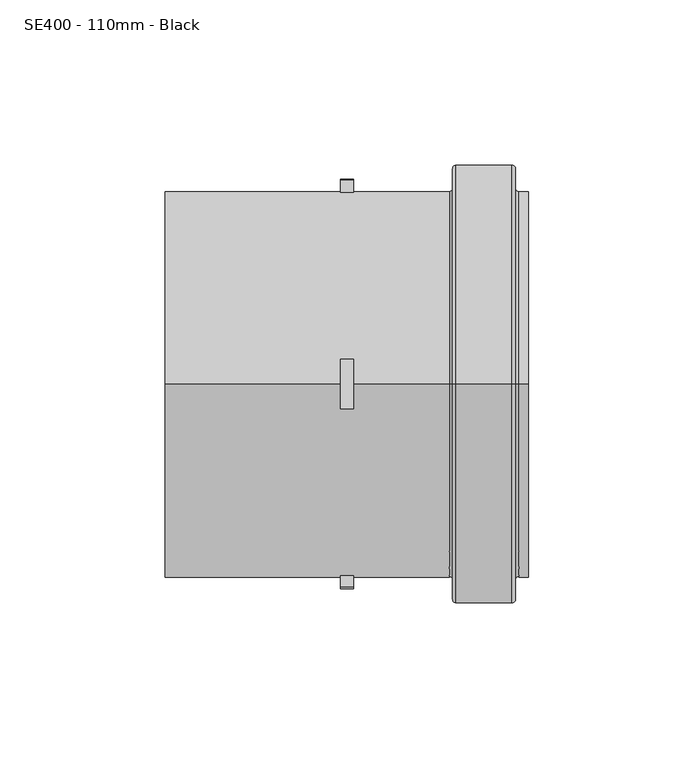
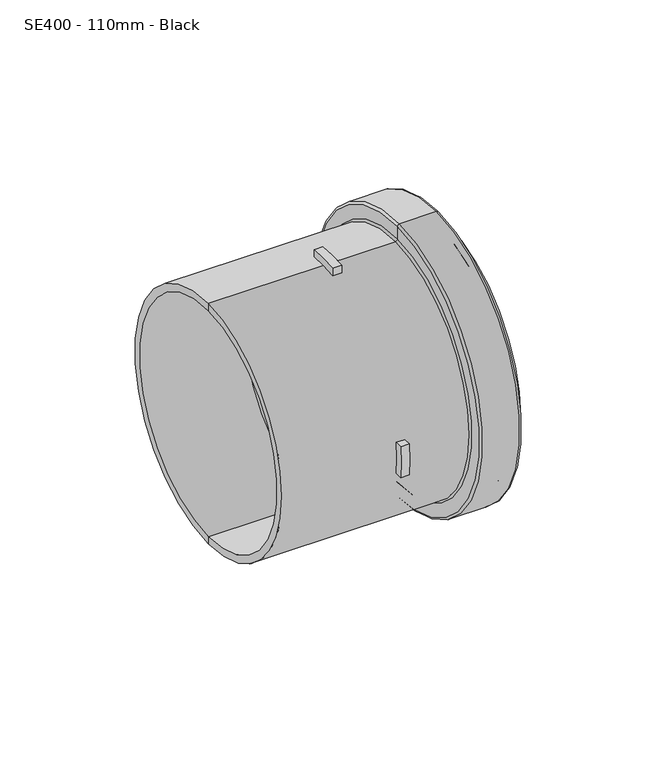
"""IFC4 building model written with IfcOpenShell, lengths in millimetres: pipe fitting geometry, MarleyPlumbingAndDrainage_PipeFitting_LoosePipeSocket : SE400 - 110mm - Black."""

from ifc_helpers import new_model, si_unit, point, frame, origin, origin_2d, place, context, project, spatial, polyline, circle_curve, ellipse_curve, trimmed, segment, composite_curve, outline, extrude, source, transform, mapped, element, save
from ifc_brep_helpers import plane_surface, cylinder_surface, revolved_surface, advanced_brep


def se400_110mm_black_a2e12baf(model_context):
    return source(origin(), model_context, "Body", "SolidModel", [
        extrude(outline(composite_curve([segment(polyline([(7.5, -58.0172388), (7.5, -61.5446992)]), True, "CONTINUOUS"), segment(trimmed(circle_curve(origin_2d(), 62.0), [point((7.5, -61.5446992))], [point((-7.5, -61.5446992))], False, "CARTESIAN"), True, "CONTINUOUS"), segment(polyline([(-7.5, -61.5446992), (-7.5, -58.0172388)]), True, "CONTINUOUS"), segment(trimmed(circle_curve(origin_2d(), 58.5), [point((-7.5, -58.0172388))], [point((7.5, -58.0172388))], True, "CARTESIAN"), True, "CONTINUOUS")], self_intersect=False)), frame((-16.8253818, 0.0, 0.0), z_axis=(1.0, 0.0, 0.0), x_axis=(0.0, 1.0, 0.0)), (0.0, 0.0, 1.0), 4.0),
        extrude(outline(composite_curve([segment(trimmed(circle_curve(origin_2d(), 62.0), [point((-7.5, 61.5446992))], [point((7.5, 61.5446992))], False, "CARTESIAN"), True, "CONTINUOUS"), segment(polyline([(7.5, 61.5446992), (7.5, 58.0172388)]), True, "CONTINUOUS"), segment(trimmed(circle_curve(origin_2d(), 58.5), [point((7.5, 58.0172388))], [point((-7.5, 58.0172388))], True, "CARTESIAN"), True, "CONTINUOUS"), segment(polyline([(-7.5, 58.0172388), (-7.5, 61.5446992)]), True, "CONTINUOUS")], self_intersect=False)), frame((-16.8253818, 0.0, 0.0), z_axis=(1.0, 0.0, 0.0), x_axis=(0.0, 1.0, 0.0)), (0.0, 0.0, 1.0), 4.0),
        extrude(outline(composite_curve([segment(polyline([(-58.0084153, -7.5679424), (-61.5363815, -7.5679424)]), True, "CONTINUOUS"), segment(trimmed(circle_curve(origin_2d(), 62.0), [point((-61.5363815, -7.5679424))], [point((-61.5529408, 7.4320576))], False, "CARTESIAN"), True, "CONTINUOUS"), segment(polyline([(-61.5529408, 7.4320576), (-58.0259814, 7.4320576)]), True, "CONTINUOUS"), segment(trimmed(circle_curve(origin_2d(), 58.5), [point((-58.0259814, 7.4320576))], [point((-58.0084153, -7.5679424))], True, "CARTESIAN"), True, "CONTINUOUS")], self_intersect=False)), frame((-16.8253818, 0.0, 0.0), z_axis=(1.0, 0.0, 0.0), x_axis=(0.0, 1.0, 0.0)), (0.0, 0.0, 1.0), 4.0),
        extrude(outline(composite_curve([segment(polyline([(61.5363815, -7.5679424), (58.0084153, -7.5679424)]), True, "CONTINUOUS"), segment(trimmed(circle_curve(origin_2d(), 58.5), [point((58.0084153, -7.5679424))], [point((58.0259814, 7.4320576))], True, "CARTESIAN"), True, "CONTINUOUS"), segment(polyline([(58.0259814, 7.4320576), (61.5529408, 7.4320576)]), True, "CONTINUOUS"), segment(trimmed(circle_curve(origin_2d(), 62.0), [point((61.5529408, 7.4320576))], [point((61.5363815, -7.5679424))], False, "CARTESIAN"), True, "CONTINUOUS")], self_intersect=False)), frame((-16.8253818, 0.0, 0.0), z_axis=(1.0, 0.0, 0.0), x_axis=(0.0, 1.0, 0.0)), (0.0, 0.0, 1.0), 4.0),
        advanced_brep(
        [(-69.8253818, 0.0, -58.5), (-69.8253818, 0.0, 58.5), (16.1746182, 0.0, 58.5), (16.1746182, 0.0, -58.5), (-69.8253818, 0.0, -55.0), (-69.8253818, 0.0, 55.0), (40.1746182, 0.0, -55.0), (40.1746182, 0.0, 55.0), (-18.8253818, 0.0, 55.0), (-18.8253818, 0.0, -55.0), (40.1746182, 0.0, -58.5), (40.1746182, 0.0, 58.5), (-21.8253818, 0.0, -55.0), (-21.8253818, 0.0, 55.0), (-21.8253818, 0.0, 0.0), (-18.8253818, 0.0, 0.0), (37.1746182, 0.0, -58.5), (37.1746182, 0.0, 58.5), (36.1746182, 0.0, -59.5), (36.1746182, 0.0, 59.5), (36.1746182, 0.0, -65.5), (36.1746182, 0.0, 65.5), (35.1746182, 0.0, -66.5), (35.1746182, 0.0, 66.5), (18.1746182, 0.0, -66.5), (18.1746182, 0.0, 66.5), (17.1746182, 0.0, -65.5), (17.1746182, 0.0, 65.5), (17.1746182, 0.0, -59.5), (17.1746182, 0.0, 59.5)],
        [
            (0, 1, circle_curve(frame((-69.8253818, 0.0, 0.0), z_axis=(1.0, 0.0, 0.0), x_axis=(0.0, 0.0, 1.0)), 58.5)),
            (1, 2),
            (2, 3, circle_curve(frame((16.1746182, 0.0, 0.0), z_axis=(-1.0, 0.0, 0.0), x_axis=(0.0, 0.0, 1.0)), 58.5)),
            (3, 0),
            (1, 0, circle_curve(frame((-69.8253818, 0.0, 0.0), z_axis=(1.0, 0.0, 0.0), x_axis=(0.0, 0.0, 1.0)), 58.5)),
            (3, 2, circle_curve(frame((16.1746182, 0.0, 0.0), z_axis=(-1.0, 0.0, 0.0), x_axis=(0.0, 0.0, 1.0)), 58.5)),
            (4, 5, circle_curve(frame((-69.8253818, 0.0, 0.0), z_axis=(1.0, 0.0, 0.0), x_axis=(0.0, 0.0, 1.0)), 55.0)),
            (5, 1),
            (0, 4),
            (5, 4, circle_curve(frame((-69.8253818, 0.0, 0.0), z_axis=(1.0, 0.0, 0.0), x_axis=(0.0, 0.0, 1.0)), 55.0)),
            (6, 7, circle_curve(frame((40.1746182, 0.0, 0.0), z_axis=(1.0, 0.0, 0.0), x_axis=(0.0, 0.0, 1.0)), 55.0)),
            (7, 8),
            (8, 9, circle_curve(frame((-18.8253818, 0.0, 0.0), z_axis=(-1.0, 0.0, 0.0), x_axis=(0.0, 0.0, 1.0)), 55.0)),
            (9, 6),
            (7, 6, circle_curve(frame((40.1746182, 0.0, 0.0), z_axis=(1.0, 0.0, 0.0), x_axis=(0.0, 0.0, 1.0)), 55.0)),
            (9, 8, circle_curve(frame((-18.8253818, 0.0, 0.0), z_axis=(-1.0, 0.0, 0.0), x_axis=(0.0, 0.0, 1.0)), 55.0)),
            (10, 11, circle_curve(frame((40.1746182, 0.0, 0.0), z_axis=(1.0, 0.0, 0.0), x_axis=(0.0, 0.0, 1.0)), 58.5)),
            (11, 7),
            (6, 10),
            (11, 10, circle_curve(frame((40.1746182, 0.0, 0.0), z_axis=(1.0, 0.0, 0.0), x_axis=(0.0, 0.0, 1.0)), 58.5)),
            (12, 13, circle_curve(frame((-21.8253818, 0.0, 0.0), z_axis=(1.0, 0.0, 0.0), x_axis=(0.0, 0.0, 1.0)), 55.0)),
            (13, 5),
            (4, 12),
            (13, 12, circle_curve(frame((-21.8253818, 0.0, 0.0), z_axis=(1.0, 0.0, 0.0), x_axis=(0.0, 0.0, 1.0)), 55.0)),
            (14, 13),
            (12, 14),
            (8, 15),
            (15, 9),
            (16, 17, circle_curve(frame((37.1746182, 0.0, 0.0), z_axis=(1.0, 0.0, 0.0), x_axis=(0.0, 0.0, 1.0)), 58.5)),
            (17, 11),
            (10, 16),
            (17, 16, circle_curve(frame((37.1746182, 0.0, 0.0), z_axis=(1.0, 0.0, 0.0), x_axis=(0.0, 0.0, 1.0)), 58.5)),
            (18, 19, circle_curve(frame((36.1746182, 0.0, 0.0), z_axis=(1.0, 0.0, 0.0), x_axis=(0.0, 0.0, 1.0)), 59.5)),
            (19, 17, circle_curve(frame((37.1746182, 0.0, 59.5), z_axis=(0.0, -1.0, 0.0), x_axis=(1.0, 0.0, 0.0)), 1.0)),
            (16, 18, circle_curve(frame((37.1746182, 0.0, -59.5), z_axis=(0.0, -1.0, 0.0), x_axis=(1.0, 0.0, 0.0)), 1.0)),
            (19, 18, circle_curve(frame((36.1746182, 0.0, 0.0), z_axis=(1.0, 0.0, 0.0), x_axis=(0.0, 0.0, 1.0)), 59.5)),
            (20, 21, circle_curve(frame((36.1746182, 0.0, 0.0), z_axis=(1.0, 0.0, 0.0), x_axis=(0.0, 0.0, 1.0)), 65.5)),
            (21, 19),
            (18, 20),
            (21, 20, circle_curve(frame((36.1746182, 0.0, 0.0), z_axis=(1.0, 0.0, 0.0), x_axis=(0.0, 0.0, 1.0)), 65.5)),
            (22, 23, circle_curve(frame((35.1746182, 0.0, 0.0), z_axis=(1.0, 0.0, 0.0), x_axis=(0.0, 0.0, 1.0)), 66.5)),
            (23, 21, circle_curve(frame((35.1746182, 0.0, 65.5), z_axis=(0.0, 1.0, 0.0), x_axis=(1.0, 0.0, 0.0)), 1.0)),
            (20, 22, circle_curve(frame((35.1746182, 0.0, -65.5), z_axis=(0.0, 1.0, 0.0), x_axis=(1.0, 0.0, 0.0)), 1.0)),
            (23, 22, circle_curve(frame((35.1746182, 0.0, 0.0), z_axis=(1.0, 0.0, 0.0), x_axis=(0.0, 0.0, 1.0)), 66.5)),
            (24, 25, circle_curve(frame((18.1746182, 0.0, 0.0), z_axis=(1.0, 0.0, 0.0), x_axis=(0.0, 0.0, 1.0)), 66.5)),
            (25, 23),
            (22, 24),
            (25, 24, circle_curve(frame((18.1746182, 0.0, 0.0), z_axis=(1.0, 0.0, 0.0), x_axis=(0.0, 0.0, 1.0)), 66.5)),
            (26, 27, circle_curve(frame((17.1746182, 0.0, 0.0), z_axis=(1.0, 0.0, 0.0), x_axis=(0.0, 0.0, 1.0)), 65.5)),
            (27, 25, circle_curve(frame((18.1746182, 0.0, 65.5), z_axis=(0.0, 1.0, 0.0), x_axis=(1.0, 0.0, 0.0)), 1.0)),
            (24, 26, circle_curve(frame((18.1746182, 0.0, -65.5), z_axis=(0.0, 1.0, 0.0), x_axis=(1.0, 0.0, 0.0)), 1.0)),
            (27, 26, circle_curve(frame((17.1746182, 0.0, 0.0), z_axis=(1.0, 0.0, 0.0), x_axis=(0.0, 0.0, 1.0)), 65.5)),
            (28, 29, circle_curve(frame((17.1746182, 0.0, 0.0), z_axis=(1.0, 0.0, 0.0), x_axis=(0.0, 0.0, 1.0)), 59.5)),
            (29, 27),
            (26, 28),
            (29, 28, circle_curve(frame((17.1746182, 0.0, 0.0), z_axis=(1.0, 0.0, 0.0), x_axis=(0.0, 0.0, 1.0)), 59.5)),
            (2, 29, circle_curve(frame((16.1746182, 0.0, 59.5), z_axis=(0.0, -1.0, 0.0), x_axis=(1.0, 0.0, 0.0)), 1.0)),
            (28, 3, circle_curve(frame((16.1746182, 0.0, -59.5), z_axis=(0.0, -1.0, 0.0), x_axis=(1.0, 0.0, 0.0)), 1.0)),
        ],
        [
            cylinder_surface(frame((-1207.7325039, 0.0, 0.0), z_axis=(-1.0, 0.0, 0.0), x_axis=(0.0, 0.0, 1.0)), 58.5),
            plane_surface(frame((-69.8253818, 0.0, 0.0), z_axis=(-1.0, 0.0, 0.0), x_axis=(0.0, 0.0, 1.0))),
            revolved_surface(polyline([(-18.82538180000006, 0.0, 55.0), (40.17461819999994, 0.0, 55.0)]), (-1207.7325039, 0.0, 0.0), (-1.0, 0.0, 0.0)),
            plane_surface(frame((40.1746182, 0.0, 0.0), z_axis=(1.0, 0.0, 0.0), x_axis=(0.0, 0.0, 1.0))),
            revolved_surface(polyline([(-69.82538180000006, 0.0, 55.0), (-21.82538180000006, 0.0, 55.0)]), (-1207.7325039, 0.0, 0.0), (-1.0, 0.0, 0.0)),
            plane_surface(frame((-21.8253818, 0.0, 0.0), z_axis=(-1.0, 0.0, 0.0), x_axis=(0.0, 0.0, 1.0))),
            plane_surface(frame((-18.8253818, 0.0, 0.0), z_axis=(1.0, 0.0, 0.0), x_axis=(0.0, 0.0, 1.0))),
            revolved_surface(trimmed(ellipse_curve(frame((37.1746182, 0.0, 59.5), z_axis=(0.0, 1.0, 0.0), x_axis=(1.0, 0.0, 0.0)), 1.0, 1.0), [point((37.1746182, 0.0, 58.5))], [point((36.1746182, 0.0, 59.5))], True, "CARTESIAN"), (-1207.7325039, 0.0, 0.0), (-1.0, 0.0, 0.0)),
            plane_surface(frame((36.1746182, 0.0, 0.0), z_axis=(1.0, 0.0, 0.0), x_axis=(0.0, 0.0, 1.0))),
            revolved_surface(trimmed(ellipse_curve(frame((35.1746182, 0.0, 65.5), z_axis=(0.0, -1.0, 0.0), x_axis=(1.0, 0.0, 0.0)), 1.0, 1.0), [point((36.1746182, 0.0, 65.5))], [point((35.1746182, 0.0, 66.5))], True, "CARTESIAN"), (-1207.7325039, 0.0, 0.0), (-1.0, 0.0, 0.0)),
            cylinder_surface(frame((-1207.7325039, 0.0, 0.0), z_axis=(-1.0, 0.0, 0.0), x_axis=(0.0, 0.0, 1.0)), 66.5),
            revolved_surface(trimmed(ellipse_curve(frame((18.1746182, 0.0, 65.5), z_axis=(0.0, -1.0, 0.0), x_axis=(1.0, 0.0, 0.0)), 1.0, 1.0), [point((18.1746182, 0.0, 66.5))], [point((17.1746182, 0.0, 65.5))], True, "CARTESIAN"), (-1207.7325039, 0.0, 0.0), (-1.0, 0.0, 0.0)),
            plane_surface(frame((17.1746182, 0.0, 0.0), z_axis=(-1.0, 0.0, 0.0), x_axis=(0.0, 0.0, 1.0))),
            revolved_surface(trimmed(ellipse_curve(frame((16.1746182, 0.0, 59.5), z_axis=(0.0, 1.0, 0.0), x_axis=(1.0, 0.0, 0.0)), 1.0, 1.0), [point((17.1746182, 0.0, 59.5))], [point((16.1746182, 0.0, 58.5))], True, "CARTESIAN"), (-1207.7325039, 0.0, 0.0), (-1.0, 0.0, 0.0)),
        ],
        [
            (0, [[1, 2, 3, 4]]),
            (0, [[5, -4, 6, -2]]),
            (1, [[7, 8, -1, 9]]),
            (1, [[10, -9, -5, -8]]),
            (2, [[11, 12, 13, 14]]),
            (2, [[15, -14, 16, -12]]),
            (3, [[17, 18, -11, 19]]),
            (3, [[20, -19, -15, -18]]),
            (4, [[21, 22, -7, 23]]),
            (4, [[24, -23, -10, -22]]),
            (5, [[25, -21, 26]]),
            (5, [[-26, -24, -25]]),
            (6, [[-13, 27, 28]]),
            (6, [[-16, -28, -27]]),
            (0, [[29, 30, -17, 31]]),
            (0, [[32, -31, -20, -30]]),
            (7, [[33, 34, -29, 35]]),
            (7, [[36, -35, -32, -34]]),
            (8, [[37, 38, -33, 39]]),
            (8, [[40, -39, -36, -38]]),
            (9, [[41, 42, -37, 43]]),
            (9, [[44, -43, -40, -42]]),
            (10, [[45, 46, -41, 47]]),
            (10, [[48, -47, -44, -46]]),
            (11, [[49, 50, -45, 51]]),
            (11, [[52, -51, -48, -50]]),
            (12, [[53, 54, -49, 55]]),
            (12, [[56, -55, -52, -54]]),
            (13, [[-3, 57, -53, 58]]),
            (13, [[-6, -58, -56, -57]]),
        ],
    ),
    ])


if __name__ == "__main__":
    model = new_model("IFC4")
    model_context = context("Model", 3, world=origin())
    ifc_project = project(units=[si_unit("LENGTHUNIT", "METRE", prefix="MILLI")], contexts=[model_context])
    site = spatial("IfcSite", under=ifc_project)
    building = spatial("IfcBuilding", under=site)
    placement = place(None, origin())
    se400_110mm_black_shape = se400_110mm_black_a2e12baf(model_context)
    element("IfcPipeFitting", 1, ObjectType="MarleyPlumbingAndDrainage_PipeFitting_LoosePipeSocket : SE400 - 110mm - Black", at=placement, inside=building, context=model_context, shape_type="MappedRepresentation", body=[
        mapped(se400_110mm_black_shape, transform((0.0, 0.0, 0.0), x_axis=(1.0, 0.0, 0.0), y_axis=(0.0, 1.0, 0.0), z_axis=(0.0, 0.0, 1.0))),
    ])
    save(model, "model.ifc")
